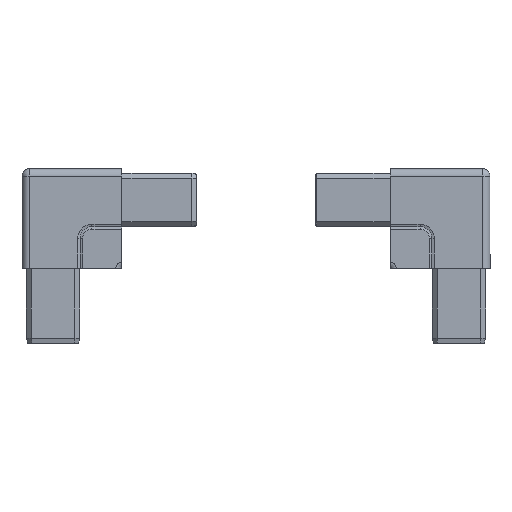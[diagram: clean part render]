
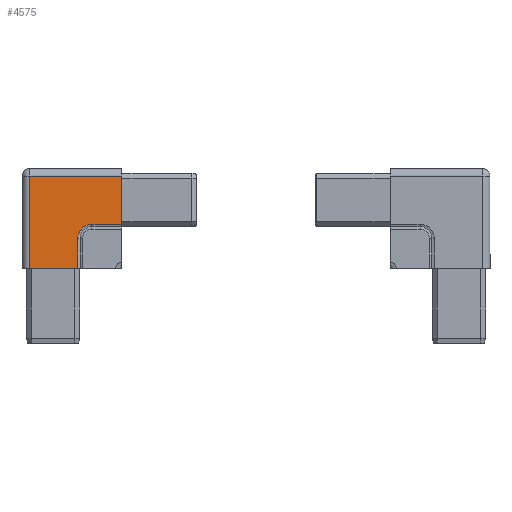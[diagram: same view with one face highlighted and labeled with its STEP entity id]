
A CAD part, left-side view. The second image highlights one B-rep face of the part: STEP entity #4575.
In plain terms, the highlighted planar face has unit normal (-1, 0, 0) as drawn and (0, 0, -1) by its records, which use the part's own axes.
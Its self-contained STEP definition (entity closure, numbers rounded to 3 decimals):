
#97 = EDGE_CURVE ( 'NONE', #1671, #1774, #3370, .T. ) ;
#147 = EDGE_CURVE ( 'NONE', #1324, #2599, #2654, .T. ) ;
#340 = CARTESIAN_POINT ( 'NONE',  ( -22.3, 12., 0. ) ) ;
#504 = CARTESIAN_POINT ( 'NONE',  ( 0., 0., 0. ) ) ;
#577 = DIRECTION ( 'NONE',  ( -1., 0., 0. ) ) ;
#604 = VERTEX_POINT ( 'NONE', #2741 ) ;
#615 = EDGE_CURVE ( 'NONE', #1324, #3348, #2206, .T. ) ;
#639 = CARTESIAN_POINT ( 'NONE',  ( -28., 17.7, 0. ) ) ;
#753 = AXIS2_PLACEMENT_3D ( 'NONE', #504, #3786, #2009 ) ;
#850 = DIRECTION ( 'NONE',  ( -1., 0., 0. ) ) ;
#1133 = CARTESIAN_POINT ( 'NONE',  ( -40., 17.7, 0. ) ) ;
#1195 = PLANE ( 'NONE',  #753 ) ;
#1201 = VECTOR ( 'NONE', #2340, 1000. ) ;
#1229 = DIRECTION ( 'NONE',  ( 1., 0., 0. ) ) ;
#1280 = LINE ( 'NONE', #1304, #1988 ) ;
#1284 = VECTOR ( 'NONE', #850, 1000. ) ;
#1292 = CARTESIAN_POINT ( 'NONE',  ( -28., 12., 0. ) ) ;
#1304 = CARTESIAN_POINT ( 'NONE',  ( 0., 0., 0. ) ) ;
#1324 = VERTEX_POINT ( 'NONE', #639 ) ;
#1328 = CARTESIAN_POINT ( 'NONE',  ( -3., 0., 0. ) ) ;
#1345 = CARTESIAN_POINT ( 'NONE',  ( -40., 0., 0. ) ) ;
#1351 = EDGE_CURVE ( 'NONE', #1801, #604, #1280, .T. ) ;
#1671 = VERTEX_POINT ( 'NONE', #2066 ) ;
#1774 = VERTEX_POINT ( 'NONE', #2371 ) ;
#1801 = VERTEX_POINT ( 'NONE', #2107 ) ;
#1963 = CARTESIAN_POINT ( 'NONE',  ( -28., 17.7, 0. ) ) ;
#1980 = FACE_OUTER_BOUND ( 'NONE', #2501, .T. ) ;
#1988 = VECTOR ( 'NONE', #2753, 1000. ) ;
#1996 = ORIENTED_EDGE ( 'NONE', *, *, #615, .F. ) ;
#2009 = DIRECTION ( 'NONE',  ( 1., 0., 0. ) ) ;
#2020 = VECTOR ( 'NONE', #3058, 1000. ) ;
#2066 = CARTESIAN_POINT ( 'NONE',  ( -40., 37., 0. ) ) ;
#2107 = CARTESIAN_POINT ( 'NONE',  ( -22.3, 0., 0. ) ) ;
#2206 = CIRCLE ( 'NONE', #3264, 5.7 ) ;
#2268 = VECTOR ( 'NONE', #1229, 1000. ) ;
#2340 = DIRECTION ( 'NONE',  ( 0., -1., 0. ) ) ;
#2371 = CARTESIAN_POINT ( 'NONE',  ( -3., 37., 0. ) ) ;
#2496 = LINE ( 'NONE', #1345, #2020 ) ;
#2501 = EDGE_LOOP ( 'NONE', ( #4333, #4583, #2832, #3929, #1996, #3923, #4607 ) ) ;
#2599 = VERTEX_POINT ( 'NONE', #1133 ) ;
#2654 = LINE ( 'NONE', #1963, #1284 ) ;
#2741 = CARTESIAN_POINT ( 'NONE',  ( -3., 0., 0. ) ) ;
#2753 = DIRECTION ( 'NONE',  ( 1., 0., 0. ) ) ;
#2756 = LINE ( 'NONE', #1328, #4531 ) ;
#2778 = EDGE_CURVE ( 'NONE', #1671, #2599, #2496, .T. ) ;
#2832 = ORIENTED_EDGE ( 'NONE', *, *, #1351, .F. ) ;
#3033 = EDGE_CURVE ( 'NONE', #3348, #1801, #4164, .T. ) ;
#3058 = DIRECTION ( 'NONE',  ( 0., -1., 0. ) ) ;
#3264 = AXIS2_PLACEMENT_3D ( 'NONE', #1292, #4189, #577 ) ;
#3348 = VERTEX_POINT ( 'NONE', #340 ) ;
#3370 = LINE ( 'NONE', #4452, #2268 ) ;
#3786 = DIRECTION ( 'NONE',  ( 0., 0., 1. ) ) ;
#3856 = DIRECTION ( 'NONE',  ( 0., -1., 0. ) ) ;
#3882 = EDGE_CURVE ( 'NONE', #1774, #604, #2756, .T. ) ;
#3923 = ORIENTED_EDGE ( 'NONE', *, *, #147, .T. ) ;
#3929 = ORIENTED_EDGE ( 'NONE', *, *, #3033, .F. ) ;
#4164 = LINE ( 'NONE', #4445, #1201 ) ;
#4189 = DIRECTION ( 'NONE',  ( 0., 0., -1. ) ) ;
#4333 = ORIENTED_EDGE ( 'NONE', *, *, #97, .T. ) ;
#4445 = CARTESIAN_POINT ( 'NONE',  ( -22.3, 12., 0. ) ) ;
#4452 = CARTESIAN_POINT ( 'NONE',  ( 0., 37., 0. ) ) ;
#4531 = VECTOR ( 'NONE', #3856, 1000. ) ;
#4575 = ADVANCED_FACE ( 'NONE', ( #1980 ), #1195, .F. ) ;
#4583 = ORIENTED_EDGE ( 'NONE', *, *, #3882, .T. ) ;
#4607 = ORIENTED_EDGE ( 'NONE', *, *, #2778, .F. ) ;
